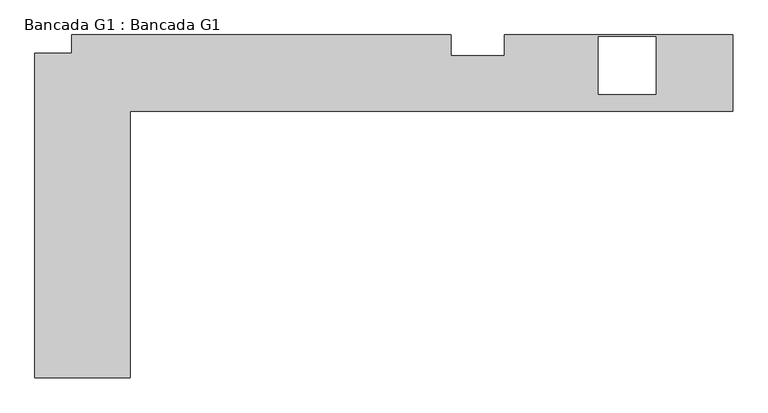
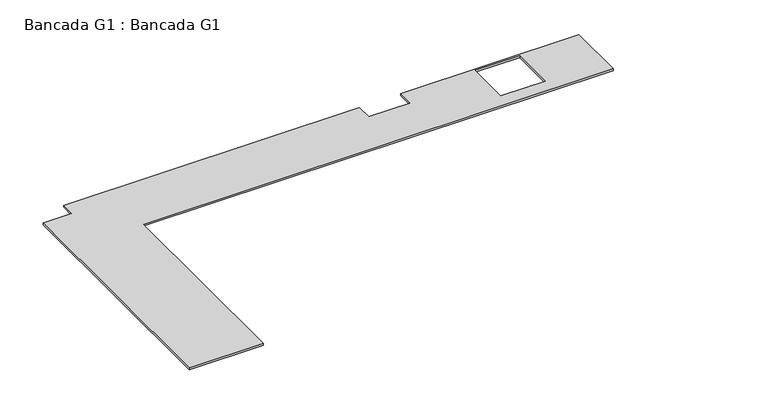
"""IFC4 building model written with IfcOpenShell, lengths in millimetres: furniture geometry, Bancada G1 : Bancada G1."""

import ifcopenshell
import ifcopenshell.guid

model = None  # the IFC model being written
_history = None  # IfcOwnerHistory: only IFC2X3 demands one
_inside = {}  # id of a spatial element -> (the spatial element, [elements in it])
_under = {}  # id of a project, library or spatial element -> (it, [spatial elements below it])
_declared = {}  # id of a project -> (the project, [libraries it declares])
_typed = {}  # id of a type object -> (the type object, [elements of that type])
_made_of = {}  # id of a material, layer set ... -> (it, [elements and type objects made of it])


def new_model(schema):
    """Start an empty IFC model of exactly this schema.

    Asked for "IFC4X3", IfcOpenShell would pick the latest addendum, in which some entities
    have other attributes; the version numbers below select the first issue.
    IFC2X3 requires an IfcOwnerHistory on every rooted entity: one is made here for all.
    """
    global model, _history
    if schema == "IFC4X3":
        model = ifcopenshell.file(schema_version=(4, 3, 0, 0))
    else:
        model = ifcopenshell.file(schema=schema)
    _inside.clear()
    _under.clear()
    _declared.clear()
    _typed.clear()
    _made_of.clear()
    _history = None
    if model.schema == "IFC2X3":
        org = make("IfcOrganization", Name="unknown")
        user = make(
            "IfcPersonAndOrganization",
            ThePerson=make("IfcPerson", FamilyName="unknown"),
            TheOrganization=org,
        )
        app = make(
            "IfcApplication",
            ApplicationDeveloper=org,
            Version="unknown",
            ApplicationFullName="unknown",
            ApplicationIdentifier="unknown",
        )
        _history = make(
            "IfcOwnerHistory",
            OwningUser=user,
            OwningApplication=app,
            ChangeAction="ADDED",
            CreationDate=0,
        )
    return model


def make(cls, **values):
    """One entity of the class cls with the attributes given. An attribute that is None is left unset."""
    return model.create_entity(
        cls, **{name: value for name, value in values.items() if value is not None}
    )


def rooted(cls, **values):
    """An entity with a GlobalId (a new one), such as an element, a storey or a relation."""
    return make(cls, GlobalId=ifcopenshell.guid.new(), OwnerHistory=_history, **values)


def si_unit(unit_type, name, prefix=None):
    """IfcSIUnit, for example si_unit("LENGTHUNIT", "METRE", prefix="MILLI")."""
    return make("IfcSIUnit", UnitType=unit_type, Prefix=prefix, Name=name)


def assignment(units):
    """IfcUnitAssignment: the units of a project."""
    return None if units is None else make("IfcUnitAssignment", Units=units)


def point(xyz):
    """IfcCartesianPoint."""
    return None if xyz is None else make("IfcCartesianPoint", Coordinates=xyz)


def direction(xyz):
    """IfcDirection."""
    return None if xyz is None else make("IfcDirection", DirectionRatios=xyz)


def frame(location, z_axis=None, x_axis=None):
    """IfcAxis2Placement3D, a coordinate frame: its origin and axes. An axis left out is left unset."""
    return make(
        "IfcAxis2Placement3D",
        Location=point(location),
        Axis=direction(z_axis),
        RefDirection=direction(x_axis),
    )


def origin():
    """The frame at (0, 0, 0) with its axes left unset."""
    return frame((0.0, 0.0, 0.0))


def place(relative_to, where):
    """IfcLocalPlacement: puts the frame where relative to a parent placement (None: the world)."""
    return make(
        "IfcLocalPlacement", PlacementRelTo=relative_to, RelativePlacement=where
    )


def context(
    kind, dimensions, precision=None, world=None, true_north=None, identifier=None
):
    """IfcGeometricRepresentationContext, for example the 3D "Model" context."""
    return make(
        "IfcGeometricRepresentationContext",
        ContextIdentifier=identifier,
        ContextType=kind,
        CoordinateSpaceDimension=dimensions,
        Precision=precision,
        WorldCoordinateSystem=world,
        TrueNorth=true_north,
    )


def project(units=None, contexts=None):
    """IfcProject with its units and contexts."""
    return rooted(
        "IfcProject",
        Name="project",
        RepresentationContexts=contexts,
        UnitsInContext=assignment(units),
    )


def spatial(cls, under=None, at=None, **own):
    """A site, building, storey or space (cls), placed at a placement, below another one or the project."""
    s = rooted(cls, ObjectPlacement=at, **own)
    if under is not None:
        _under.setdefault(under.id(), (under, []))[1].append(s)
    return s


def polyline(points):
    """IfcPolyline through the points."""
    return make("IfcPolyline", Points=[point(p) for p in points])


def outline(outer, holes=None, kind="AREA"):
    """IfcArbitraryClosedProfileDef: a profile drawn as a closed curve; with holes, ...WithVoids."""
    if holes is None:
        return make("IfcArbitraryClosedProfileDef", ProfileType=kind, OuterCurve=outer)
    return make(
        "IfcArbitraryProfileDefWithVoids",
        ProfileType=kind,
        OuterCurve=outer,
        InnerCurves=holes,
    )


def extrude(swept, where, along, depth):
    """IfcExtrudedAreaSolid: the profile swept, set in the frame where, extruded along a direction by depth."""
    return make(
        "IfcExtrudedAreaSolid",
        SweptArea=swept,
        Position=where,
        ExtrudedDirection=direction(along),
        Depth=depth,
    )


def shape(context_of_items, identifier, shape_type, items):
    """IfcShapeRepresentation: the items that make up one representation, for example the "Body"."""
    return make(
        "IfcShapeRepresentation",
        ContextOfItems=context_of_items,
        RepresentationIdentifier=identifier,
        RepresentationType=shape_type,
        Items=items,
    )


def source(mapping_origin, context_of_items, identifier, shape_type, items):
    """IfcRepresentationMap: a shape defined once, which mapped items show again and again."""
    return make(
        "IfcRepresentationMap",
        MappingOrigin=mapping_origin,
        MappedRepresentation=shape(context_of_items, identifier, shape_type, items),
    )


def transform(
    local_origin,
    x_axis=None,
    y_axis=None,
    z_axis=None,
    scale=None,
    scale2=None,
    scale3=None,
    uniform=True,
):
    """IfcCartesianTransformationOperator3D, or its non-uniform kind. x_axis, y_axis, z_axis: its Axis1, 2, 3."""
    if uniform:
        return make(
            "IfcCartesianTransformationOperator3D",
            Axis1=direction(x_axis),
            Axis2=direction(y_axis),
            LocalOrigin=point(local_origin),
            Scale=scale,
            Axis3=direction(z_axis),
        )
    return make(
        "IfcCartesianTransformationOperator3DnonUniform",
        Axis1=direction(x_axis),
        Axis2=direction(y_axis),
        LocalOrigin=point(local_origin),
        Scale=scale,
        Axis3=direction(z_axis),
        Scale2=scale2,
        Scale3=scale3,
    )


def mapped(mapping_source, mapping_target):
    """IfcMappedItem: shows the shape of a source again, moved by a transform."""
    return make(
        "IfcMappedItem", MappingSource=mapping_source, MappingTarget=mapping_target
    )


def made_of(thing, what):
    """Note that an element or type object is made of a material, layer set ...; save() writes the relation."""
    if what is not None:
        _made_of.setdefault(what.id(), (what, []))[1].append(thing)
    return thing


def element(
    cls,
    number,
    at=None,
    inside=None,
    cuts=None,
    type_object=None,
    material=None,
    context=None,
    identifier="Body",
    shape_type=None,
    held_by="IfcProductDefinitionShape",
    body=None,
    shapes=None,
    **own,
):
    """One element of the class cls, such as IfcWall. Its Tag is "e" and its number.

    at: its placement. inside: the storey or other place that contains it. cuts: it is an
    opening in that element (IfcRelVoidsElement). A single representation is given by context,
    identifier, shape_type and body (its items); several are given by shapes. held_by: the class
    of the entity that holds the representations. save() writes the other relations.
    """
    e = rooted(cls, Tag="e%d" % number, ObjectPlacement=at, **own)
    if body is not None:
        shapes = [shape(context, identifier, shape_type, body)]
    if shapes is not None:
        e.Representation = make(held_by, Representations=shapes)
    if inside is not None:
        _inside.setdefault(inside.id(), (inside, []))[1].append(e)
    if cuts is not None:
        rooted(
            "IfcRelVoidsElement", RelatingBuildingElement=cuts, RelatedOpeningElement=e
        )
    if type_object is not None:
        _typed.setdefault(type_object.id(), (type_object, []))[1].append(e)
    return made_of(e, material)


def aggregate(whole, parts):
    """IfcRelAggregates: a whole, such as a stair, and the parts it consists of."""
    return rooted("IfcRelAggregates", RelatingObject=whole, RelatedObjects=parts)


def save(model, path):
    """Write the relations noted so far, then the file.

    IfcRelAggregates (storeys below a building ...), IfcRelContainedInSpatialStructure (elements
    in a storey), IfcRelDefinesByType, IfcRelAssociatesMaterial and IfcRelDeclares: one each for
    every whole, place, type object, material and project.
    """
    for whole, parts in _under.values():
        aggregate(whole, parts)
    for where, things in _inside.values():
        rooted(
            "IfcRelContainedInSpatialStructure",
            RelatedElements=things,
            RelatingStructure=where,
        )
    for kind, things in _typed.values():
        rooted("IfcRelDefinesByType", RelatedObjects=things, RelatingType=kind)
    for what, things in _made_of.values():
        rooted("IfcRelAssociatesMaterial", RelatedObjects=things, RelatingMaterial=what)
    for by, libraries in _declared.values():
        rooted("IfcRelDeclares", RelatingContext=by, RelatedDefinitions=libraries)
    model.write(path)


def bancada_g1_bancada_g1_876c18de(model_context):
    return source(origin(), model_context, "Body", "SweptSolid", [
        extrude(outline(polyline([(-4992.3834094, -3137.0637549), (-9742.3834094, -3137.0637549), (-9742.3834094, -5237.0637549), (-10492.3834094, -5237.0637549), (-10492.3834094, -2682.0637549), (-10202.3834094, -2682.0637549), (-10202.3834094, -2537.0637549), (-7212.3834094, -2537.0637549), (-7212.3834094, -2702.0637549), (-6792.3834094, -2702.0637549), (-6792.3834094, -2537.0637549), (-4992.3834094, -2537.0637549), (-4992.3834094, -3137.0637549)]), holes=[polyline([(-5599.2834094, -2552.7637549), (-6049.2834094, -2552.7637549), (-6049.2834094, -3002.7637549), (-5599.2834094, -3002.7637549), (-5599.2834094, -2552.7637549)])]), frame((0.0, 0.0, 880.0), z_axis=(0.0, 0.0, 1.0), x_axis=(1.0, 0.0, 0.0)), (0.0, 0.0, 1.0), 20.0),
    ])


if __name__ == "__main__":
    model = new_model("IFC4")
    model_context = context("Model", 3, world=origin())
    ifc_project = project(units=[si_unit("LENGTHUNIT", "METRE", prefix="MILLI")], contexts=[model_context])
    site = spatial("IfcSite", under=ifc_project)
    building = spatial("IfcBuilding", under=site)
    placement = place(None, origin())
    bancada_g1_bancada_g1_shape = bancada_g1_bancada_g1_876c18de(model_context)
    element("IfcFurniture", 1, ObjectType="Bancada G1 : Bancada G1", at=placement, inside=building, context=model_context, shape_type="MappedRepresentation", body=[
        mapped(bancada_g1_bancada_g1_shape, transform((0.0, 0.0, 0.0), x_axis=(1.0, 0.0, 0.0), y_axis=(0.0, 1.0, 0.0), z_axis=(0.0, 0.0, 1.0))),
    ])
    save(model, "model.ifc")
